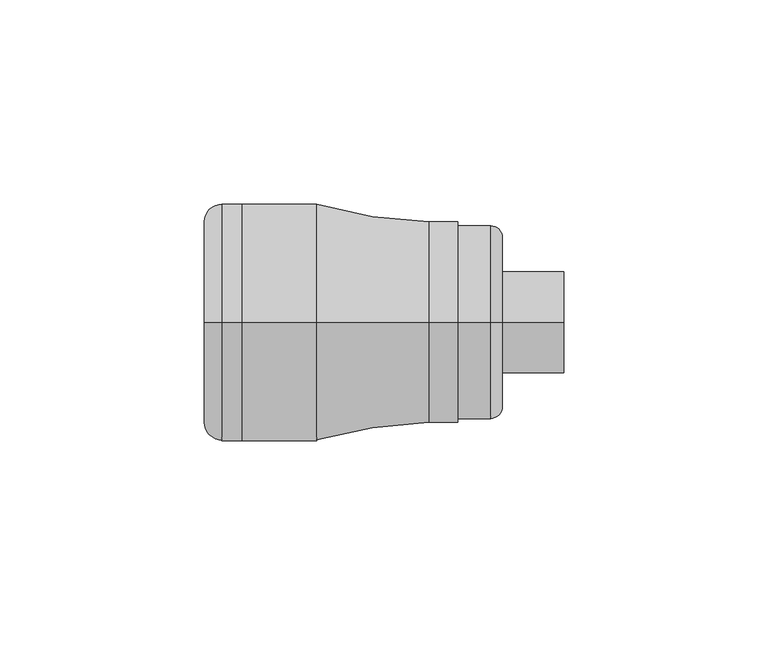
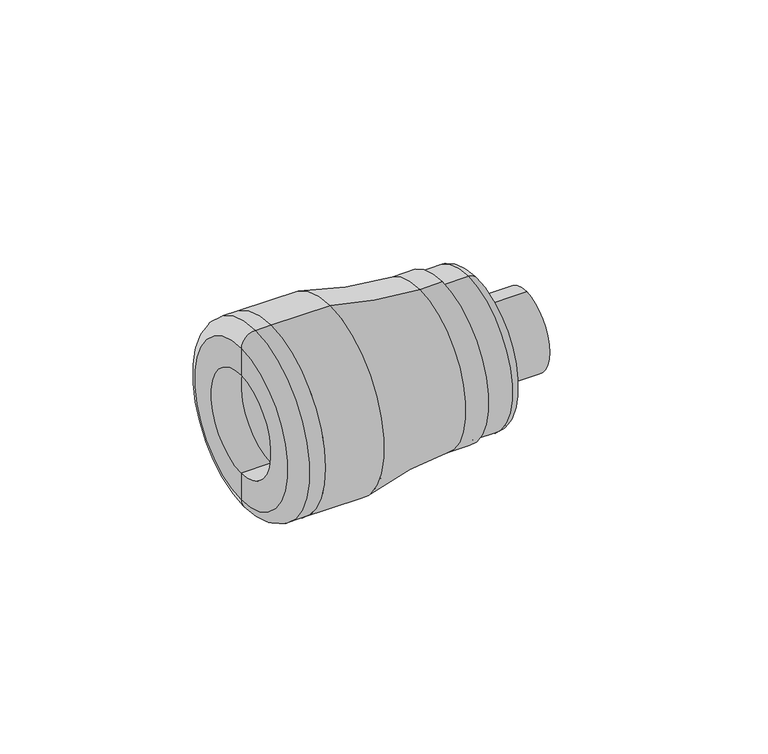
"""IFC4 building model written with IfcOpenShell, lengths in millimetres: pipe fitting geometry, Plumbing_Pipe-Fittings_Plasson_Male-Adaptor-with-Threaded-Brass-Offtake_1072 : Plumbing_Pipe-Fittings_Plasson_Male-Adaptor-with-Threaded-Brass-Offtake_1072."""

import ifcopenshell
import ifcopenshell.guid

model = None  # the IFC model being written
_history = None  # IfcOwnerHistory: only IFC2X3 demands one
_inside = {}  # id of a spatial element -> (the spatial element, [elements in it])
_under = {}  # id of a project, library or spatial element -> (it, [spatial elements below it])
_declared = {}  # id of a project -> (the project, [libraries it declares])
_typed = {}  # id of a type object -> (the type object, [elements of that type])
_made_of = {}  # id of a material, layer set ... -> (it, [elements and type objects made of it])


def new_model(schema):
    """Start an empty IFC model of exactly this schema.

    Asked for "IFC4X3", IfcOpenShell would pick the latest addendum, in which some entities
    have other attributes; the version numbers below select the first issue.
    IFC2X3 requires an IfcOwnerHistory on every rooted entity: one is made here for all.
    """
    global model, _history
    if schema == "IFC4X3":
        model = ifcopenshell.file(schema_version=(4, 3, 0, 0))
    else:
        model = ifcopenshell.file(schema=schema)
    _inside.clear()
    _under.clear()
    _declared.clear()
    _typed.clear()
    _made_of.clear()
    _history = None
    if model.schema == "IFC2X3":
        org = make("IfcOrganization", Name="unknown")
        user = make(
            "IfcPersonAndOrganization",
            ThePerson=make("IfcPerson", FamilyName="unknown"),
            TheOrganization=org,
        )
        app = make(
            "IfcApplication",
            ApplicationDeveloper=org,
            Version="unknown",
            ApplicationFullName="unknown",
            ApplicationIdentifier="unknown",
        )
        _history = make(
            "IfcOwnerHistory",
            OwningUser=user,
            OwningApplication=app,
            ChangeAction="ADDED",
            CreationDate=0,
        )
    return model


def make(cls, **values):
    """One entity of the class cls with the attributes given. An attribute that is None is left unset."""
    return model.create_entity(
        cls, **{name: value for name, value in values.items() if value is not None}
    )


def rooted(cls, **values):
    """An entity with a GlobalId (a new one), such as an element, a storey or a relation."""
    return make(cls, GlobalId=ifcopenshell.guid.new(), OwnerHistory=_history, **values)


def si_unit(unit_type, name, prefix=None):
    """IfcSIUnit, for example si_unit("LENGTHUNIT", "METRE", prefix="MILLI")."""
    return make("IfcSIUnit", UnitType=unit_type, Prefix=prefix, Name=name)


def assignment(units):
    """IfcUnitAssignment: the units of a project."""
    return None if units is None else make("IfcUnitAssignment", Units=units)


def point(xyz):
    """IfcCartesianPoint."""
    return None if xyz is None else make("IfcCartesianPoint", Coordinates=xyz)


def direction(xyz):
    """IfcDirection."""
    return None if xyz is None else make("IfcDirection", DirectionRatios=xyz)


def frame(location, z_axis=None, x_axis=None):
    """IfcAxis2Placement3D, a coordinate frame: its origin and axes. An axis left out is left unset."""
    return make(
        "IfcAxis2Placement3D",
        Location=point(location),
        Axis=direction(z_axis),
        RefDirection=direction(x_axis),
    )


def origin():
    """The frame at (0, 0, 0) with its axes left unset."""
    return frame((0.0, 0.0, 0.0))


def place(relative_to, where):
    """IfcLocalPlacement: puts the frame where relative to a parent placement (None: the world)."""
    return make(
        "IfcLocalPlacement", PlacementRelTo=relative_to, RelativePlacement=where
    )


def context(
    kind, dimensions, precision=None, world=None, true_north=None, identifier=None
):
    """IfcGeometricRepresentationContext, for example the 3D "Model" context."""
    return make(
        "IfcGeometricRepresentationContext",
        ContextIdentifier=identifier,
        ContextType=kind,
        CoordinateSpaceDimension=dimensions,
        Precision=precision,
        WorldCoordinateSystem=world,
        TrueNorth=true_north,
    )


def project(units=None, contexts=None):
    """IfcProject with its units and contexts."""
    return rooted(
        "IfcProject",
        Name="project",
        RepresentationContexts=contexts,
        UnitsInContext=assignment(units),
    )


def spatial(cls, under=None, at=None, **own):
    """A site, building, storey or space (cls), placed at a placement, below another one or the project."""
    s = rooted(cls, ObjectPlacement=at, **own)
    if under is not None:
        _under.setdefault(under.id(), (under, []))[1].append(s)
    return s


def polyline(points):
    """IfcPolyline through the points."""
    return make("IfcPolyline", Points=[point(p) for p in points])


def circle_curve(where, radius):
    """IfcCircle in the frame where."""
    return make("IfcCircle", Position=where, Radius=radius)


def ellipse_curve(where, semi_axis1, semi_axis2):
    """IfcEllipse in the frame where."""
    return make(
        "IfcEllipse", Position=where, SemiAxis1=semi_axis1, SemiAxis2=semi_axis2
    )


def trimmed(basis, trim1, trim2, sense, master):
    """IfcTrimmedCurve: the piece of a basis curve between two trims."""
    return make(
        "IfcTrimmedCurve",
        BasisCurve=basis,
        Trim1=trim1,
        Trim2=trim2,
        SenseAgreement=sense,
        MasterRepresentation=master,
    )


def shape(context_of_items, identifier, shape_type, items):
    """IfcShapeRepresentation: the items that make up one representation, for example the "Body"."""
    return make(
        "IfcShapeRepresentation",
        ContextOfItems=context_of_items,
        RepresentationIdentifier=identifier,
        RepresentationType=shape_type,
        Items=items,
    )


def source(mapping_origin, context_of_items, identifier, shape_type, items):
    """IfcRepresentationMap: a shape defined once, which mapped items show again and again."""
    return make(
        "IfcRepresentationMap",
        MappingOrigin=mapping_origin,
        MappedRepresentation=shape(context_of_items, identifier, shape_type, items),
    )


def transform(
    local_origin,
    x_axis=None,
    y_axis=None,
    z_axis=None,
    scale=None,
    scale2=None,
    scale3=None,
    uniform=True,
):
    """IfcCartesianTransformationOperator3D, or its non-uniform kind. x_axis, y_axis, z_axis: its Axis1, 2, 3."""
    if uniform:
        return make(
            "IfcCartesianTransformationOperator3D",
            Axis1=direction(x_axis),
            Axis2=direction(y_axis),
            LocalOrigin=point(local_origin),
            Scale=scale,
            Axis3=direction(z_axis),
        )
    return make(
        "IfcCartesianTransformationOperator3DnonUniform",
        Axis1=direction(x_axis),
        Axis2=direction(y_axis),
        LocalOrigin=point(local_origin),
        Scale=scale,
        Axis3=direction(z_axis),
        Scale2=scale2,
        Scale3=scale3,
    )


def mapped(mapping_source, mapping_target):
    """IfcMappedItem: shows the shape of a source again, moved by a transform."""
    return make(
        "IfcMappedItem", MappingSource=mapping_source, MappingTarget=mapping_target
    )


def made_of(thing, what):
    """Note that an element or type object is made of a material, layer set ...; save() writes the relation."""
    if what is not None:
        _made_of.setdefault(what.id(), (what, []))[1].append(thing)
    return thing


def element(
    cls,
    number,
    at=None,
    inside=None,
    cuts=None,
    type_object=None,
    material=None,
    context=None,
    identifier="Body",
    shape_type=None,
    held_by="IfcProductDefinitionShape",
    body=None,
    shapes=None,
    **own,
):
    """One element of the class cls, such as IfcWall. Its Tag is "e" and its number.

    at: its placement. inside: the storey or other place that contains it. cuts: it is an
    opening in that element (IfcRelVoidsElement). A single representation is given by context,
    identifier, shape_type and body (its items); several are given by shapes. held_by: the class
    of the entity that holds the representations. save() writes the other relations.
    """
    e = rooted(cls, Tag="e%d" % number, ObjectPlacement=at, **own)
    if body is not None:
        shapes = [shape(context, identifier, shape_type, body)]
    if shapes is not None:
        e.Representation = make(held_by, Representations=shapes)
    if inside is not None:
        _inside.setdefault(inside.id(), (inside, []))[1].append(e)
    if cuts is not None:
        rooted(
            "IfcRelVoidsElement", RelatingBuildingElement=cuts, RelatedOpeningElement=e
        )
    if type_object is not None:
        _typed.setdefault(type_object.id(), (type_object, []))[1].append(e)
    return made_of(e, material)


def aggregate(whole, parts):
    """IfcRelAggregates: a whole, such as a stair, and the parts it consists of."""
    return rooted("IfcRelAggregates", RelatingObject=whole, RelatedObjects=parts)


def save(model, path):
    """Write the relations noted so far, then the file.

    IfcRelAggregates (storeys below a building ...), IfcRelContainedInSpatialStructure (elements
    in a storey), IfcRelDefinesByType, IfcRelAssociatesMaterial and IfcRelDeclares: one each for
    every whole, place, type object, material and project.
    """
    for whole, parts in _under.values():
        aggregate(whole, parts)
    for where, things in _inside.values():
        rooted(
            "IfcRelContainedInSpatialStructure",
            RelatedElements=things,
            RelatingStructure=where,
        )
    for kind, things in _typed.values():
        rooted("IfcRelDefinesByType", RelatedObjects=things, RelatingType=kind)
    for what, things in _made_of.values():
        rooted("IfcRelAssociatesMaterial", RelatedObjects=things, RelatingMaterial=what)
    for by, libraries in _declared.values():
        rooted("IfcRelDeclares", RelatingContext=by, RelatedDefinitions=libraries)
    model.write(path)


def plane_surface(at):
    """IfcPlane: the flat surface through the origin of the frame at, square to its z axis."""
    return make("IfcPlane", Position=at)


def cylinder_surface(at, radius):
    """IfcCylindricalSurface: all points at the distance radius from the z axis of the frame at."""
    return make("IfcCylindricalSurface", Position=at, Radius=radius)


def revolved_surface(curve, axis_point, axis_direction):
    """IfcSurfaceOfRevolution: the curve turned about the line through axis_point along axis_direction."""
    return make(
        "IfcSurfaceOfRevolution",
        SweptCurve=make("IfcArbitraryOpenProfileDef", ProfileType="CURVE", Curve=curve),
        AxisPosition=make("IfcAxis1Placement", Location=point(axis_point), Axis=direction(axis_direction)),
    )


def advanced_brep(points, edges, surfaces, faces):
    """IfcAdvancedBrep: a solid bounded by faces that lie on surfaces and meet in shared edges.

    An edge is (start, end): straight between two places in points (the first is 0);
    or (start, end, curve); or (start, end, curve, False) where it runs against its curve.
    A face is (place in surfaces, loops), or (place, loops, False) where it looks against
    its surface's normal. A loop lists edges by number (the first is 1), with a minus sign
    where the edge is run from its end to its start. The first loop is the outer one.
    """
    corners = [point(p) for p in points]
    vertices = [make("IfcVertexPoint", VertexGeometry=c) for c in corners]
    made = []
    for start, end, *more in edges:
        made.append(
            make(
                "IfcEdgeCurve",
                EdgeStart=vertices[start],
                EdgeEnd=vertices[end],
                EdgeGeometry=more[0] if more else make("IfcPolyline", Points=[corners[start], corners[end]]),
                SameSense=more[1] if len(more) > 1 else True,
            )
        )
    hull = []
    for where, loops, *sense in faces:
        bounds = []
        for j, loop in enumerate(loops):
            ring = [make("IfcOrientedEdge", EdgeElement=made[abs(k) - 1], Orientation=k > 0) for k in loop]
            bounds.append(
                make(
                    "IfcFaceOuterBound" if j == 0 else "IfcFaceBound",
                    Bound=make("IfcEdgeLoop", EdgeList=ring),
                    Orientation=True,
                )
            )
        hull.append(make("IfcAdvancedFace", Bounds=bounds, FaceSurface=surfaces[where], SameSense=sense[0] if sense else True))
    return make("IfcAdvancedBrep", Outer=make("IfcClosedShell", CfsFaces=hull))


def pipe_fitting_8eeb2347(model_context):
    return source(origin(), model_context, "Body", "AdvancedBrep", [
        advanced_brep(
        [(15.8817136, 0.0, -8.675), (15.8817136, 0.0, 8.675), (0.8817136, 0.0, 8.675), (0.8817136, 0.0, -8.675), (0.8817136, 0.0, 12.35), (0.8817136, 0.0, -12.35), (15.8817136, 0.0, 12.35), (15.8817136, 0.0, -12.35)],
        [
            (0, 1, circle_curve(frame((15.8817136, 0.0, 0.0), z_axis=(1.0, 0.0, 0.0), x_axis=(0.0, 0.0, 1.0)), 8.675)),
            (1, 2),
            (2, 3, circle_curve(frame((0.8817136, 0.0, 0.0), z_axis=(-1.0, 0.0, 0.0), x_axis=(0.0, 0.0, 1.0)), 8.675)),
            (3, 0),
            (1, 0, circle_curve(frame((15.8817136, 0.0, 0.0), z_axis=(1.0, 0.0, 0.0), x_axis=(0.0, 0.0, 1.0)), 8.675)),
            (3, 2, circle_curve(frame((0.8817136, 0.0, 0.0), z_axis=(-1.0, 0.0, 0.0), x_axis=(0.0, 0.0, 1.0)), 8.675)),
            (2, 4),
            (4, 5, circle_curve(frame((0.8817136, 0.0, 0.0), z_axis=(-1.0, 0.0, 0.0), x_axis=(0.0, 0.0, 1.0)), 12.35)),
            (5, 3),
            (5, 4, circle_curve(frame((0.8817136, 0.0, 0.0), z_axis=(-1.0, 0.0, 0.0), x_axis=(0.0, 0.0, 1.0)), 12.35)),
            (4, 6),
            (6, 7, circle_curve(frame((15.8817136, 0.0, 0.0), z_axis=(-1.0, 0.0, 0.0), x_axis=(0.0, 0.0, 1.0)), 12.35)),
            (7, 5),
            (7, 6, circle_curve(frame((15.8817136, 0.0, 0.0), z_axis=(-1.0, 0.0, 0.0), x_axis=(0.0, 0.0, 1.0)), 12.35)),
            (6, 1),
            (0, 7),
        ],
        [
            revolved_surface(polyline([(0.8817135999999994, 0.0, 8.675), (15.8817136, 0.0, 8.675)]), (10.5483803, 0.0, 0.0), (-1.0, 0.0, 0.0)),
            plane_surface(frame((0.8817136, 0.0, 0.0), z_axis=(-1.0, 0.0, 0.0), x_axis=(0.0, 0.0, 1.0))),
            cylinder_surface(frame((10.5483803, 0.0, 0.0), z_axis=(-1.0, 0.0, 0.0), x_axis=(0.0, 0.0, 1.0)), 12.35),
            plane_surface(frame((15.8817136, 0.0, 0.0), z_axis=(1.0, 0.0, 0.0), x_axis=(0.0, 0.0, 1.0))),
        ],
        [
            (0, [[1, 2, 3, 4]]),
            (0, [[5, -4, 6, -2]]),
            (1, [[-3, 7, 8, 9]]),
            (1, [[-6, -9, 10, -7]]),
            (2, [[-8, 11, 12, 13]]),
            (2, [[-10, -13, 14, -11]]),
            (3, [[-12, 15, -1, 16]]),
            (3, [[-14, -16, -5, -15]]),
        ],
    ),
        advanced_brep(
        [(-62.9516197, 0.0, -16.0), (-62.9516197, 0.0, 16.0), (-72.1182864, 0.0, 16.0), (-72.1182864, 0.0, -16.0), (-72.1182864, 0.0, 24.6666667), (-72.1182864, 0.0, -24.6666667), (-67.784953, 0.0, 29.0), (-67.784953, 0.0, -29.0), (-62.9516197, 0.0, 29.0), (-62.9516197, 0.0, -29.0)],
        [
            (0, 1, circle_curve(frame((-62.9516197, 0.0, 0.0), z_axis=(1.0, 0.0, 0.0), x_axis=(0.0, 0.0, 1.0)), 16.0)),
            (1, 2),
            (2, 3, circle_curve(frame((-72.1182864, 0.0, 0.0), z_axis=(-1.0, 0.0, 0.0), x_axis=(0.0, 0.0, 1.0)), 16.0)),
            (3, 0),
            (1, 0, circle_curve(frame((-62.9516197, 0.0, 0.0), z_axis=(1.0, 0.0, 0.0), x_axis=(0.0, 0.0, 1.0)), 16.0)),
            (3, 2, circle_curve(frame((-72.1182864, 0.0, 0.0), z_axis=(-1.0, 0.0, 0.0), x_axis=(0.0, 0.0, 1.0)), 16.0)),
            (2, 4),
            (4, 5, circle_curve(frame((-72.1182864, 0.0, 0.0), z_axis=(-1.0, 0.0, 0.0), x_axis=(0.0, 0.0, 1.0)), 24.6666667)),
            (5, 3),
            (5, 4, circle_curve(frame((-72.1182864, 0.0, 0.0), z_axis=(-1.0, 0.0, 0.0), x_axis=(0.0, 0.0, 1.0)), 24.6666667)),
            (4, 6, circle_curve(frame((-67.784953, 0.0, 24.6666667), z_axis=(0.0, 1.0, 0.0), x_axis=(-1.0, 0.0, 0.0)), 4.3333333)),
            (6, 7, circle_curve(frame((-67.784953, 0.0, 0.0), z_axis=(-1.0, 0.0, 0.0), x_axis=(0.0, 0.0, 1.0)), 29.0)),
            (7, 5, circle_curve(frame((-67.784953, 0.0, -24.6666667), z_axis=(0.0, 1.0, 0.0), x_axis=(-1.0, 0.0, 0.0)), 4.3333333)),
            (7, 6, circle_curve(frame((-67.784953, 0.0, 0.0), z_axis=(-1.0, 0.0, 0.0), x_axis=(0.0, 0.0, 1.0)), 29.0)),
            (6, 8),
            (8, 9, circle_curve(frame((-62.9516197, 0.0, 0.0), z_axis=(-1.0, 0.0, 0.0), x_axis=(0.0, 0.0, 1.0)), 29.0)),
            (9, 7),
            (9, 8, circle_curve(frame((-62.9516197, 0.0, 0.0), z_axis=(-1.0, 0.0, 0.0), x_axis=(0.0, 0.0, 1.0)), 29.0)),
            (8, 1),
            (0, 9),
        ],
        [
            revolved_surface(polyline([(-72.1182864, 0.0, 16.0), (-62.9516197, 0.0, 16.0)]), (-49.0654501, 0.0, 0.0), (-1.0, 0.0, 0.0)),
            plane_surface(frame((-72.1182864, 0.0, 0.0), z_axis=(-1.0, 0.0, 0.0), x_axis=(0.0, 0.0, 1.0))),
            revolved_surface(trimmed(ellipse_curve(frame((-67.784953, 0.0, 24.6666667), z_axis=(0.0, -1.0, 0.0), x_axis=(-1.0, 0.0, 0.0)), 4.3333333, 4.3333333), [point((-67.784953, 0.0, 29.0))], [point((-72.1182864, 0.0, 24.6666667))], True, "CARTESIAN"), (-49.0654501, 0.0, 0.0), (-1.0, 0.0, 0.0)),
            cylinder_surface(frame((-49.0654501, 0.0, 0.0), z_axis=(-1.0, 0.0, 0.0), x_axis=(0.0, 0.0, 1.0)), 29.0),
            plane_surface(frame((-62.9516197, 0.0, 0.0), z_axis=(1.0, 0.0, 0.0), x_axis=(0.0, 0.0, 1.0))),
        ],
        [
            (0, [[1, 2, 3, 4]]),
            (0, [[5, -4, 6, -2]]),
            (1, [[-3, 7, 8, 9]]),
            (1, [[-6, -9, 10, -7]]),
            (2, [[-8, 11, 12, 13]]),
            (2, [[-10, -13, 14, -11]]),
            (3, [[-12, 15, 16, 17]]),
            (3, [[-14, -17, 18, -15]]),
            (4, [[-16, 19, -1, 20]]),
            (4, [[-18, -20, -5, -19]]),
        ],
    ),
        advanced_brep(
        [(-44.6182864, 0.0, -29.0), (-44.6182864, 0.0, 29.0), (-17.1182864, 0.0, 24.6666667), (-17.1182864, 0.0, -24.6666667), (-10.0780441, 0.0, 24.6666667), (-10.0780441, 0.0, -24.6666667), (-10.0780441, 0.0, 23.6666667), (-10.0780441, 0.0, -23.6666667), (0.8817136, 0.0, -8.675), (0.8817136, 0.0, 8.675), (-17.1182864, 0.0, 8.675), (-17.1182864, 0.0, -8.675), (-17.1182864, 0.0, 16.0), (-17.1182864, 0.0, -16.0), (-62.9516197, 0.0, 16.0), (-62.9516197, 0.0, -16.0), (-62.9516197, 0.0, 29.0), (-62.9516197, 0.0, -29.0), (0.8817136, 0.0, -20.7777778), (0.8817136, 0.0, 20.7777778), (-2.0071753, 0.0, -23.6666667), (-2.0071753, 0.0, 23.6666667)],
        [
            (0, 1, circle_curve(frame((-44.6182864, 0.0, 0.0), z_axis=(1.0, 0.0, 0.0), x_axis=(0.0, 0.0, 1.0)), 29.0)),
            (1, 2, circle_curve(frame((-13.8137531, 0.0, 135.0640252), z_axis=(0.0, -1.0, 0.0), x_axis=(-1.0, 0.0, 0.0)), 110.4468049)),
            (2, 3, circle_curve(frame((-17.1182864, 0.0, 0.0), z_axis=(-1.0, 0.0, 0.0), x_axis=(0.0, 0.0, 1.0)), 24.6666667)),
            (3, 0, circle_curve(frame((-13.8137531, 0.0, -135.0640252), z_axis=(0.0, -1.0, 0.0), x_axis=(-1.0, 0.0, 0.0)), 110.4468049)),
            (1, 0, circle_curve(frame((-44.6182864, 0.0, 0.0), z_axis=(1.0, 0.0, 0.0), x_axis=(0.0, 0.0, 1.0)), 29.0)),
            (3, 2, circle_curve(frame((-17.1182864, 0.0, 0.0), z_axis=(-1.0, 0.0, 0.0), x_axis=(0.0, 0.0, 1.0)), 24.6666667)),
            (2, 4),
            (4, 5, circle_curve(frame((-10.0780441, 0.0, 0.0), z_axis=(-1.0, 0.0, 0.0), x_axis=(0.0, 0.0, 1.0)), 24.6666667)),
            (5, 3),
            (5, 4, circle_curve(frame((-10.0780441, 0.0, 0.0), z_axis=(-1.0, 0.0, 0.0), x_axis=(0.0, 0.0, 1.0)), 24.6666667)),
            (4, 6),
            (6, 7, circle_curve(frame((-10.0780441, 0.0, 0.0), z_axis=(-1.0, 0.0, 0.0), x_axis=(0.0, 0.0, 1.0)), 23.6666667)),
            (7, 5),
            (7, 6, circle_curve(frame((-10.0780441, 0.0, 0.0), z_axis=(-1.0, 0.0, 0.0), x_axis=(0.0, 0.0, 1.0)), 23.6666667)),
            (8, 9, circle_curve(frame((0.8817136, 0.0, 0.0), z_axis=(1.0, 0.0, 0.0), x_axis=(0.0, 0.0, 1.0)), 8.675)),
            (9, 10),
            (10, 11, circle_curve(frame((-17.1182864, 0.0, 0.0), z_axis=(-1.0, 0.0, 0.0), x_axis=(0.0, 0.0, 1.0)), 8.675)),
            (11, 8),
            (9, 8, circle_curve(frame((0.8817136, 0.0, 0.0), z_axis=(1.0, 0.0, 0.0), x_axis=(0.0, 0.0, 1.0)), 8.675)),
            (11, 10, circle_curve(frame((-17.1182864, 0.0, 0.0), z_axis=(-1.0, 0.0, 0.0), x_axis=(0.0, 0.0, 1.0)), 8.675)),
            (10, 12),
            (12, 13, circle_curve(frame((-17.1182864, 0.0, 0.0), z_axis=(-1.0, 0.0, 0.0), x_axis=(0.0, 0.0, 1.0)), 16.0)),
            (13, 11),
            (13, 12, circle_curve(frame((-17.1182864, 0.0, 0.0), z_axis=(-1.0, 0.0, 0.0), x_axis=(0.0, 0.0, 1.0)), 16.0)),
            (12, 14),
            (14, 15, circle_curve(frame((-62.9516197, 0.0, 0.0), z_axis=(-1.0, 0.0, 0.0), x_axis=(0.0, 0.0, 1.0)), 16.0)),
            (15, 13),
            (15, 14, circle_curve(frame((-62.9516197, 0.0, 0.0), z_axis=(-1.0, 0.0, 0.0), x_axis=(0.0, 0.0, 1.0)), 16.0)),
            (14, 16),
            (16, 17, circle_curve(frame((-62.9516197, 0.0, 0.0), z_axis=(-1.0, 0.0, 0.0), x_axis=(0.0, 0.0, 1.0)), 29.0)),
            (17, 15),
            (17, 16, circle_curve(frame((-62.9516197, 0.0, 0.0), z_axis=(-1.0, 0.0, 0.0), x_axis=(0.0, 0.0, 1.0)), 29.0)),
            (16, 1),
            (0, 17),
            (18, 19, circle_curve(frame((0.8817136, 0.0, 0.0), z_axis=(1.0, 0.0, 0.0), x_axis=(0.0, 0.0, 1.0)), 20.7777778)),
            (19, 9),
            (8, 18),
            (19, 18, circle_curve(frame((0.8817136, 0.0, 0.0), z_axis=(1.0, 0.0, 0.0), x_axis=(0.0, 0.0, 1.0)), 20.7777778)),
            (20, 21, circle_curve(frame((-2.0071753, 0.0, 0.0), z_axis=(1.0, 0.0, 0.0), x_axis=(0.0, 0.0, 1.0)), 23.6666667)),
            (21, 19, circle_curve(frame((-2.0071753, 0.0, 20.7777778), z_axis=(0.0, 1.0, 0.0), x_axis=(-1.0, 0.0, 0.0)), 2.8888889)),
            (18, 20, circle_curve(frame((-2.0071753, 0.0, -20.7777778), z_axis=(0.0, 1.0, 0.0), x_axis=(-1.0, 0.0, 0.0)), 2.8888889)),
            (21, 20, circle_curve(frame((-2.0071753, 0.0, 0.0), z_axis=(1.0, 0.0, 0.0), x_axis=(0.0, 0.0, 1.0)), 23.6666667)),
            (6, 21),
            (20, 7),
        ],
        [
            revolved_surface(trimmed(ellipse_curve(frame((-13.8137531, 0.0, 135.0640252), z_axis=(0.0, 1.0, 0.0), x_axis=(-1.0, 0.0, 0.0)), 110.4468049, 110.4468049), [point((-17.1182864, 0.0, 24.6666667))], [point((-44.6182864, 0.0, 29.0))], True, "CARTESIAN"), (-44.6182864, 0.0, 0.0), (-1.0, 0.0, 0.0)),
            cylinder_surface(frame((-44.6182864, 0.0, 0.0), z_axis=(-1.0, 0.0, 0.0), x_axis=(0.0, 0.0, 1.0)), 24.6666667),
            plane_surface(frame((-10.0780441, 0.0, 0.0), z_axis=(1.0, 0.0, 0.0), x_axis=(0.0, 0.0, 1.0))),
            revolved_surface(polyline([(-17.1182864, 0.0, 8.675), (0.8817135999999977, 0.0, 8.675)]), (-44.6182864, 0.0, 0.0), (-1.0, 0.0, 0.0)),
            plane_surface(frame((-17.1182864, 0.0, 0.0), z_axis=(-1.0, 0.0, 0.0), x_axis=(0.0, 0.0, 1.0))),
            revolved_surface(polyline([(-62.9516197, 0.0, 16.0), (-17.1182864, 0.0, 16.0)]), (-44.6182864, 0.0, 0.0), (-1.0, 0.0, 0.0)),
            plane_surface(frame((-62.9516197, 0.0, 0.0), z_axis=(-1.0, 0.0, 0.0), x_axis=(0.0, 0.0, 1.0))),
            cylinder_surface(frame((-44.6182864, 0.0, 0.0), z_axis=(-1.0, 0.0, 0.0), x_axis=(0.0, 0.0, 1.0)), 29.0),
            plane_surface(frame((0.8817136, 0.0, 0.0), z_axis=(1.0, 0.0, 0.0), x_axis=(0.0, 0.0, 1.0))),
            revolved_surface(trimmed(ellipse_curve(frame((-2.0071753, 0.0, 20.7777778), z_axis=(0.0, -1.0, 0.0), x_axis=(-1.0, 0.0, 0.0)), 2.8888889, 2.8888889), [point((0.8817136, 0.0, 20.7777778))], [point((-2.0071753, 0.0, 23.6666667))], True, "CARTESIAN"), (-44.6182864, 0.0, 0.0), (-1.0, 0.0, 0.0)),
            cylinder_surface(frame((-44.6182864, 0.0, 0.0), z_axis=(-1.0, 0.0, 0.0), x_axis=(0.0, 0.0, 1.0)), 23.6666667),
        ],
        [
            (0, [[1, 2, 3, 4]]),
            (0, [[5, -4, 6, -2]]),
            (1, [[-3, 7, 8, 9]]),
            (1, [[-6, -9, 10, -7]]),
            (2, [[-8, 11, 12, 13]]),
            (2, [[-10, -13, 14, -11]]),
            (3, [[15, 16, 17, 18]]),
            (3, [[19, -18, 20, -16]]),
            (4, [[-17, 21, 22, 23]]),
            (4, [[-20, -23, 24, -21]]),
            (5, [[-22, 25, 26, 27]]),
            (5, [[-24, -27, 28, -25]]),
            (6, [[-26, 29, 30, 31]]),
            (6, [[-28, -31, 32, -29]]),
            (7, [[-30, 33, -1, 34]]),
            (7, [[-32, -34, -5, -33]]),
            (8, [[35, 36, -15, 37]]),
            (8, [[38, -37, -19, -36]]),
            (9, [[39, 40, -35, 41]]),
            (9, [[42, -41, -38, -40]]),
            (10, [[-12, 43, -39, 44]]),
            (10, [[-14, -44, -42, -43]]),
        ],
    ),
    ])


if __name__ == "__main__":
    model = new_model("IFC4")
    model_context = context("Model", 3, world=origin())
    ifc_project = project(units=[si_unit("LENGTHUNIT", "METRE", prefix="MILLI")], contexts=[model_context])
    site = spatial("IfcSite", under=ifc_project)
    building = spatial("IfcBuilding", under=site)
    placement = place(None, origin())
    pipe_fitting_shape = pipe_fitting_8eeb2347(model_context)
    element("IfcPipeFitting", 1, ObjectType="Plumbing_Pipe-Fittings_Plasson_Male-Adaptor-with-Threaded-Brass-Offtake_1072 : Plumbing_Pipe-Fittings_Plasson_Male-Adaptor-with-Threaded-Brass-Offtake_1072", at=placement, inside=building, context=model_context, shape_type="MappedRepresentation", body=[
        mapped(pipe_fitting_shape, transform((0.0, 0.0, 0.0), x_axis=(1.0, 0.0, 0.0), y_axis=(0.0, 1.0, 0.0), z_axis=(0.0, 0.0, 1.0))),
    ])
    save(model, "model.ifc")
